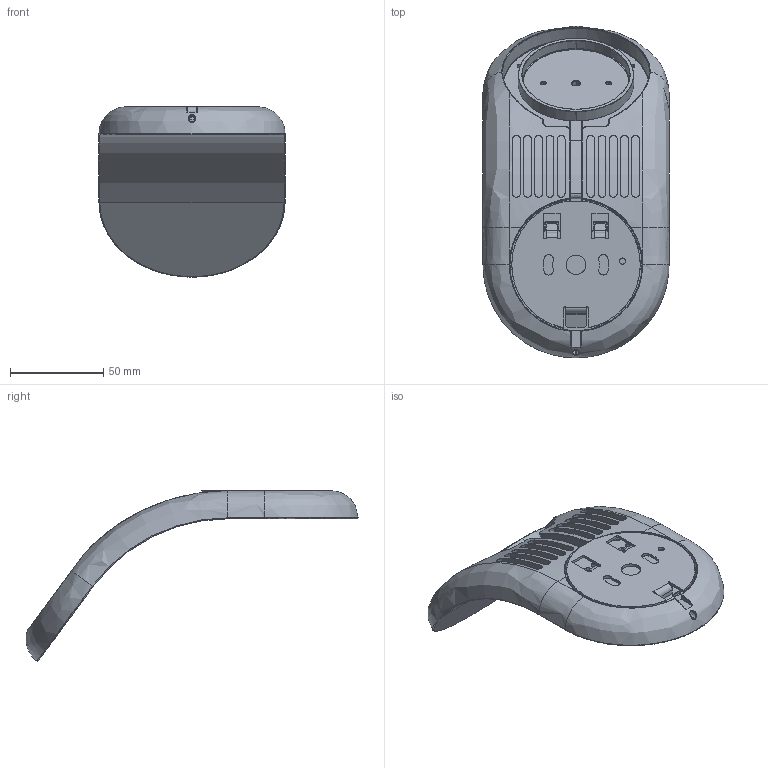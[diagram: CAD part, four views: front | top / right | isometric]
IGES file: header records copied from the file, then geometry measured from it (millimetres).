
Start section: SolidWorks IGES file using analytic representation for surfaces
Global section: file name: \\STORAGE\Tecnico Condiviso\1 FASCICOLI TECNICI\AXO DESIGN\AXO043-LIK\LIK-PLUS\DISEGNI 3D\APLIKPLUS-PER 3D.IGS; native system: SolidWorks 2024; preprocessor: SolidWorks 2024; author: tecnico3; date: 240527.172545; units: millimetre
Bounding box: 100 x 178.36 x 91.46 mm (x, y, z)
Surface area: 75001 mm2 (no closed solid volume)
Topology: 0 solids, 0 shells, 454 faces, 6033 edges, 6006 vertices
Faces by surface type: revolution 251, bspline 203
